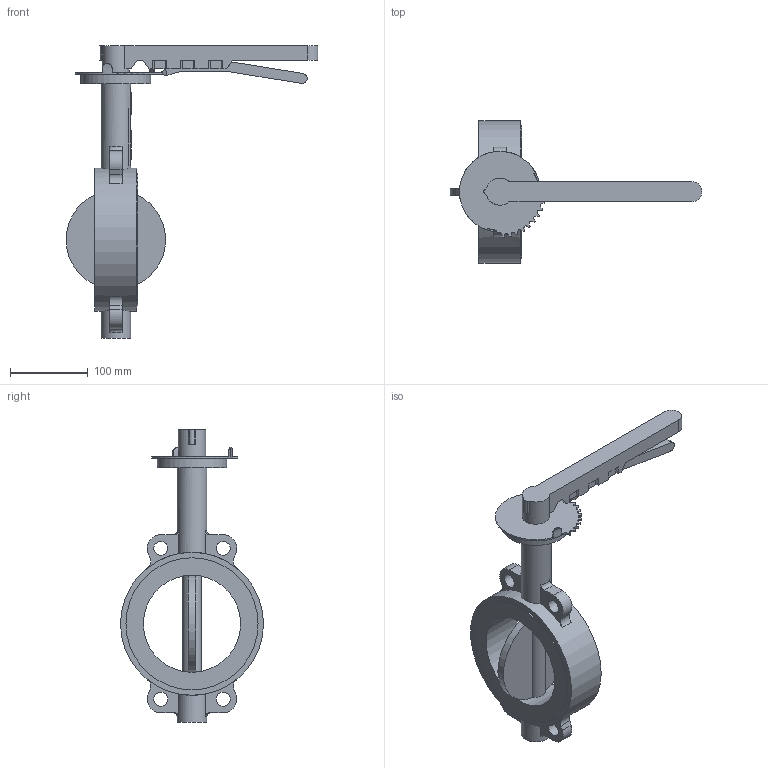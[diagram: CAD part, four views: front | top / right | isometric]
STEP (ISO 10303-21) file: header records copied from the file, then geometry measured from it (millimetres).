
FILE_DESCRIPTION(('STEP AP203'), '1');
FILE_NAME('青蜮铕 017WDN125', '', ('UNSPECIFIED'), ('UNSPECIFIED'), 'ASCON STEP Converter 1.6', 'ASCON Math Kernel', '');
FILE_SCHEMA(('CONFIG_CONTROL_DESIGN'));
Length unit declared in the file: millimetre
Bounding box: 324 x 184 x 377 mm (x, y, z)
Volume: 221286.4 mm3; surface area: 213037.7 mm2
Topology: 1 solids, 2 shells, 759 faces, 2247 edges, 1451 vertices
Faces by surface type: cylinder 498, plane 257, torus 4
Full cylindrical faces by diameter (mm): 10 x4, 18 x4, 18.9 x1, 35 x1, 38 x2, 55 x1, 90 x1, 125 x1, 170 x2, 184 x1
Entity records: 33274 total; most frequent: CARTESIAN_POINT 5973, DIRECTION 4766, ORIENTED_EDGE 4397, EDGE_CURVE 2230, AXIS2_PLACEMENT_3D 1816, VERTEX_POINT 1451, LINE 1134, VECTOR 1134
